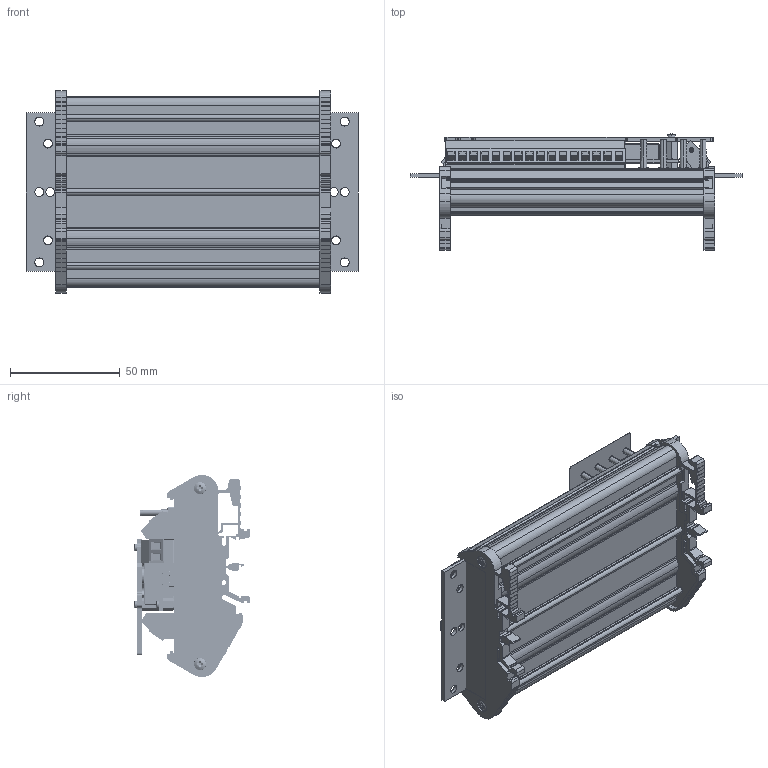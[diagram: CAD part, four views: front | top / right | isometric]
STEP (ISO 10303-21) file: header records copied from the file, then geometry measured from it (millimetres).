
FILE_DESCRIPTION((''),'1');
FILE_NAME('ETLB_8-channel.step','2023-11-06T13:17:13',(''),(''),'','','');
FILE_SCHEMA(('AUTOMOTIVE_DESIGN { 1 0 10303 214 1 1 1 1 }'));
Products named in the file (34): ETLB part 01; ETLB screw 01; ETLB part 03; ETLB part 04; ETLB display 01; ETLB display 02; ETLB spacer 01; ETLB spacer 02; ETLB part 05; ETLB part 06; ETLB part 07; ETLB part 08; ETLB button 01; ETLB part 09; ETLB part 10; ETLB cover 01; ETLB nut 01; ETLB connector 01; 1; 12; 13; ETLB part 12; ETLB part 13; 2; 22; 23; ETLB circuit board 01; ETLB 8-channel; ETLB circuit board 02; ETLB part 15; ETLB screw 03; ETLB part 16; ETLB part 17; ETLB base 01
Assembly tree (74 placements, depth 6):
  ETLB 8-channel
    ETLB part 09
      ETLB part 01
        ETLB screw 01  x4
        ETLB part 03
        ETLB part 04
        ETLB display 01
        ETLB display 02
        ETLB spacer 01  x2
        ETLB spacer 02  x4
        ETLB part 05  x4
        ETLB part 06
        ETLB part 07
        ETLB part 08  x2
        ETLB button 01  x4
      ETLB part 10
        ETLB cover 01
        ETLB nut 01  x4
        ETLB connector 01
        ETLB part 12
          1
            12  x10
            13  x10
          ETLB part 13
          2
            22  x4
            23
      ETLB circuit board 01
    ETLB circuit board 02
    ETLB part 15
      ETLB screw 03  x4
      ETLB part 16
      ETLB part 17
      ETLB base 01
Bounding box: 151 x 52.77 x 91.96 mm (x, y, z)
Volume: 140000.7 mm3; surface area: 149830.3 mm2
Topology: 68 solids, 68 shells, 6780 faces, 17217 edges, 11148 vertices
Faces by surface type: plane 4190, cylinder 1900, cone 440, torus 202, sphere 48
Entity records: 157488 total; most frequent: CARTESIAN_POINT 26757, ORIENTED_EDGE 23612, DIRECTION 23470, EDGE_CURVE 11806, LINE 8272, VECTOR 8272, VERTEX_POINT 7698, AXIS2_PLACEMENT_3D 7599
